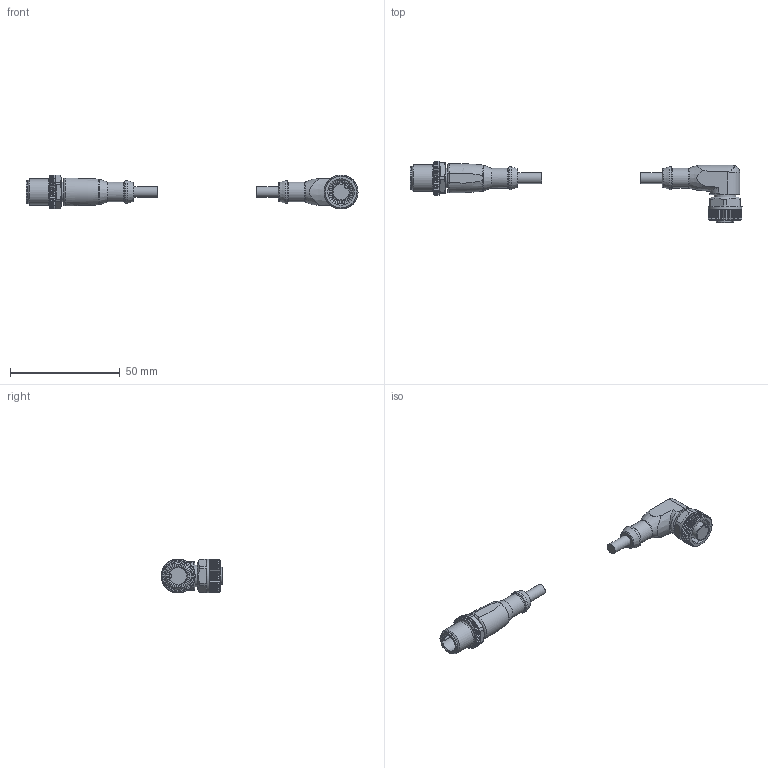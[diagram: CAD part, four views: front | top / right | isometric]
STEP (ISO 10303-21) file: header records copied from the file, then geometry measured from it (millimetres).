
FILE_DESCRIPTION(/* description */ ('STEP AP203'),/* implementation_level */ '2;1');
FILE_NAME(/* name */ 'EVW054',/* time_stamp */ '2022-12-14T11:41:17+01:00',/* author */ ('License CC BY-ND 4.0'),/* organization */ ('CADENAS'),/* preprocessor_version */ 'ST-DEVELOPER v18.102',/* originating_system */ 'PARTsolutions',/* authorisation */ ' ');
FILE_SCHEMA (('CONFIG_CONTROL_DESIGN'));
Length unit declared in the file: millimetre
Products named in the file (3): EVW054; P_MZ_SUV_0248_part2; P_MZ_SUV_0248_part1
Assembly tree (2 placements, depth 2):
  EVW054
    P_MZ_SUV_0248_part2
    P_MZ_SUV_0248_part1
Bounding box: 151.23 x 28.08 x 15.46 mm (x, y, z)
Volume: 10627.4 mm3; surface area: 5695.7 mm2
Topology: 2 solids, 2 shells, 478 faces, 1357 edges, 896 vertices
Faces by surface type: plane 412, torus 27, cylinder 24, cone 15
Full cylindrical faces by diameter (mm): 4.9 x2, 7.9 x1, 8.3 x1, 8.9 x1, 9 x2, 9.8 x1, 9.9 x1, 10.1 x1, 10.4 x2, 10.7 x1, 10.917 x1, 12 x1, 15.46 x2
Entity records: 19016 total; most frequent: CARTESIAN_POINT 3677, ORIENTED_EDGE 2612, DIRECTION 2310, EDGE_CURVE 1306, VERTEX_POINT 887, AXIS2_PLACEMENT_3D 823, LINE 664, VECTOR 664
